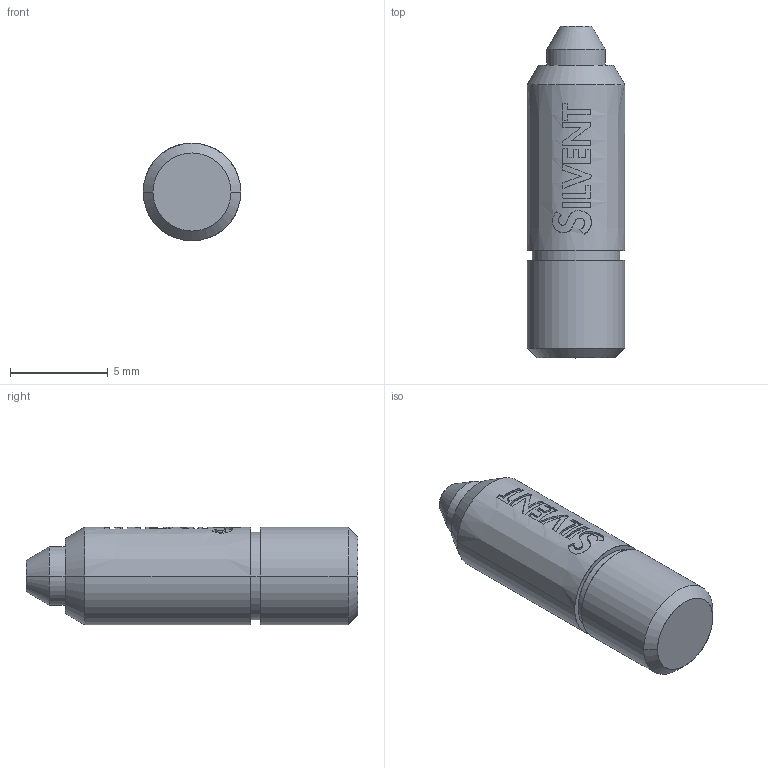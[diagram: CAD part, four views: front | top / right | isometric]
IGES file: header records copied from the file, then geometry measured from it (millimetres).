
Start section: SolidWorks IGES FILE using analytic representation for surfaces
Global section: file name: G:\Silvent\Ritningar\Övrigt\IGES\Silvent MJ5.IGS; native system: SolidWorks 2003 by SolidWorks Corporation; preprocessor: Version 5.3; author: Ulf; date: 030923.134902; units: millimetre
Bounding box: 5 x 17 x 5 mm (x, y, z)
Surface area: 285.6 mm2 (no closed solid volume)
Topology: 0 solids, 0 shells, 149 faces, 1149 edges, 1149 vertices
Faces by surface type: revolution 96, bspline 53
